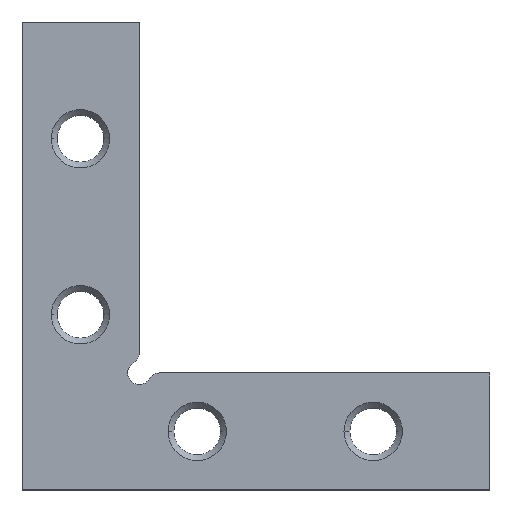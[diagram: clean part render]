
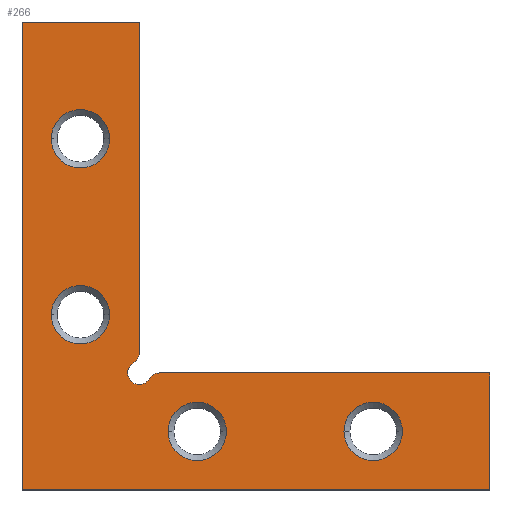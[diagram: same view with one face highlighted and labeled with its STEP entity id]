
A CAD part, top view. The second image highlights one B-rep face of the part: STEP entity #266.
In plain terms, the highlighted planar face has unit normal (0, 0, 1).
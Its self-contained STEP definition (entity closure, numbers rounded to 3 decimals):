
#4 = DIRECTION ( 'NONE',  ( -1., 0., 0. ) ) ;
#11 = DIRECTION ( 'NONE',  ( -1., 0., 0. ) ) ;
#35 = VECTOR ( 'NONE', #1023, 1000. ) ;
#36 = CARTESIAN_POINT ( 'NONE',  ( -14.874, 0.951, 4. ) ) ;
#37 = FACE_BOUND ( 'NONE', #321, .T. ) ;
#63 = FACE_OUTER_BOUND ( 'NONE', #493, .T. ) ;
#65 = ORIENTED_EDGE ( 'NONE', *, *, #1045, .F. ) ;
#72 = LINE ( 'NONE', #167, #35 ) ;
#74 = DIRECTION ( 'NONE',  ( -1., 0., 0. ) ) ;
#76 = CIRCLE ( 'NONE', #249, 2.5 ) ;
#89 = CARTESIAN_POINT ( 'NONE',  ( -22.425, 5.937, 4. ) ) ;
#94 = CARTESIAN_POINT ( 'NONE',  ( -14.874, 31.007, 4. ) ) ;
#115 = PLANE ( 'NONE',  #878 ) ;
#119 = CARTESIAN_POINT ( 'NONE',  ( -14.874, 31.007, 4. ) ) ;
#124 = AXIS2_PLACEMENT_3D ( 'NONE', #246, #846, #337 ) ;
#125 = DIRECTION ( 'NONE',  ( 1., 0., 0. ) ) ;
#130 = DIRECTION ( 'NONE',  ( 0., 0., 1. ) ) ;
#149 = VERTEX_POINT ( 'NONE', #303 ) ;
#154 = VERTEX_POINT ( 'NONE', #817 ) ;
#155 = CIRCLE ( 'NONE', #977, 2.5 ) ;
#157 = ORIENTED_EDGE ( 'NONE', *, *, #225, .F. ) ;
#167 = CARTESIAN_POINT ( 'NONE',  ( -24.925, 31.007, 4. ) ) ;
#191 = DIRECTION ( 'NONE',  ( -1., 0., 0. ) ) ;
#197 = EDGE_CURVE ( 'NONE', #827, #575, #1022, .T. ) ;
#204 = CARTESIAN_POINT ( 'NONE',  ( -15.374, 1.817, 4. ) ) ;
#206 = VECTOR ( 'NONE', #215, 1000. ) ;
#213 = VECTOR ( 'NONE', #227, 1000. ) ;
#215 = DIRECTION ( 'NONE',  ( 1., 0., 0. ) ) ;
#225 = EDGE_CURVE ( 'NONE', #232, #550, #967, .T. ) ;
#227 = DIRECTION ( 'NONE',  ( 1., 0., 0. ) ) ;
#230 = CIRCLE ( 'NONE', #782, 1. ) ;
#232 = VERTEX_POINT ( 'NONE', #799 ) ;
#240 = CARTESIAN_POINT ( 'NONE',  ( -19.925, 21.007, 4. ) ) ;
#246 = CARTESIAN_POINT ( 'NONE',  ( -19.925, 21.007, 4. ) ) ;
#249 = AXIS2_PLACEMENT_3D ( 'NONE', #255, #855, #347 ) ;
#255 = CARTESIAN_POINT ( 'NONE',  ( -9.925, -4.049, 4. ) ) ;
#256 = FACE_BOUND ( 'NONE', #743, .T. ) ;
#262 = ORIENTED_EDGE ( 'NONE', *, *, #372, .T. ) ;
#266 = ADVANCED_FACE ( 'NONE', ( #491, #713, #256, #37, #63 ), #115, .F. ) ;
#268 = LINE ( 'NONE', #974, #213 ) ;
#273 = DIRECTION ( 'NONE',  ( 0., 1., 0. ) ) ;
#274 = ORIENTED_EDGE ( 'NONE', *, *, #578, .T. ) ;
#282 = AXIS2_PLACEMENT_3D ( 'NONE', #1021, #512, #4 ) ;
#285 = ORIENTED_EDGE ( 'NONE', *, *, #803, .F. ) ;
#291 = CIRCLE ( 'NONE', #1004, 2.5 ) ;
#292 = EDGE_CURVE ( 'NONE', #676, #550, #911, .T. ) ;
#303 = CARTESIAN_POINT ( 'NONE',  ( -14.874, 2.683, 4. ) ) ;
#304 = ORIENTED_EDGE ( 'NONE', *, *, #529, .T. ) ;
#321 = EDGE_LOOP ( 'NONE', ( #274, #540 ) ) ;
#327 = DIRECTION ( 'NONE',  ( -1., 0., 0. ) ) ;
#334 = VERTEX_POINT ( 'NONE', #336 ) ;
#336 = CARTESIAN_POINT ( 'NONE',  ( -17.425, 21.007, 4. ) ) ;
#337 = DIRECTION ( 'NONE',  ( -1., 0., 0. ) ) ;
#338 = DIRECTION ( 'NONE',  ( 0., 0., -1. ) ) ;
#342 = CARTESIAN_POINT ( 'NONE',  ( 5.146, -4.049, 4. ) ) ;
#347 = DIRECTION ( 'NONE',  ( -1., 0., 0. ) ) ;
#359 = ORIENTED_EDGE ( 'NONE', *, *, #292, .T. ) ;
#372 = EDGE_CURVE ( 'NONE', #864, #149, #807, .T. ) ;
#376 = VERTEX_POINT ( 'NONE', #693 ) ;
#379 = CARTESIAN_POINT ( 'NONE',  ( 2.646, -4.049, 4. ) ) ;
#383 = ORIENTED_EDGE ( 'NONE', *, *, #603, .T. ) ;
#384 = CIRCLE ( 'NONE', #282, 2.5 ) ;
#427 = CARTESIAN_POINT ( 'NONE',  ( -24.925, -9.063, 4. ) ) ;
#429 = EDGE_CURVE ( 'NONE', #575, #827, #76, .T. ) ;
#431 = DIRECTION ( 'NONE',  ( -1., 0., 0. ) ) ;
#449 = AXIS2_PLACEMENT_3D ( 'NONE', #1100, #589, #74 ) ;
#454 = CARTESIAN_POINT ( 'NONE',  ( 0., 0., 4. ) ) ;
#469 = LINE ( 'NONE', #729, #206 ) ;
#491 = FACE_BOUND ( 'NONE', #518, .T. ) ;
#493 = EDGE_LOOP ( 'NONE', ( #157, #835, #862, #262, #285, #65, #976, #304, #359 ) ) ;
#495 = CARTESIAN_POINT ( 'NONE',  ( -19.925, 5.937, 4. ) ) ;
#508 = EDGE_CURVE ( 'NONE', #232, #568, #230, .T. ) ;
#512 = DIRECTION ( 'NONE',  ( 0., 0., -1. ) ) ;
#518 = EDGE_LOOP ( 'NONE', ( #786, #383 ) ) ;
#519 = DIRECTION ( 'NONE',  ( 0., 0., -1. ) ) ;
#529 = EDGE_CURVE ( 'NONE', #759, #676, #469, .T. ) ;
#538 = CARTESIAN_POINT ( 'NONE',  ( 15.146, -9.063, 4. ) ) ;
#540 = ORIENTED_EDGE ( 'NONE', *, *, #1103, .T. ) ;
#542 = LINE ( 'NONE', #94, #880 ) ;
#550 = VERTEX_POINT ( 'NONE', #956 ) ;
#568 = VERTEX_POINT ( 'NONE', #963 ) ;
#575 = VERTEX_POINT ( 'NONE', #700 ) ;
#577 = ORIENTED_EDGE ( 'NONE', *, *, #1058, .T. ) ;
#578 = EDGE_CURVE ( 'NONE', #334, #629, #834, .T. ) ;
#582 = DIRECTION ( 'NONE',  ( -1., 0., 0. ) ) ;
#587 = EDGE_CURVE ( 'NONE', #795, #376, #384, .T. ) ;
#589 = DIRECTION ( 'NONE',  ( 0., 0., 1. ) ) ;
#603 = EDGE_CURVE ( 'NONE', #1056, #154, #155, .T. ) ;
#605 = CARTESIAN_POINT ( 'NONE',  ( -22.425, 21.007, 4. ) ) ;
#625 = AXIS2_PLACEMENT_3D ( 'NONE', #36, #633, #125 ) ;
#629 = VERTEX_POINT ( 'NONE', #605 ) ;
#633 = DIRECTION ( 'NONE',  ( 0., 0., 1. ) ) ;
#641 = CARTESIAN_POINT ( 'NONE',  ( -13.142, -0.049, 4. ) ) ;
#658 = DIRECTION ( 'NONE',  ( 1., 0., 0. ) ) ;
#676 = VERTEX_POINT ( 'NONE', #725 ) ;
#679 = DIRECTION ( 'NONE',  ( 0., -1., 0. ) ) ;
#693 = CARTESIAN_POINT ( 'NONE',  ( -17.425, 5.937, 4. ) ) ;
#700 = CARTESIAN_POINT ( 'NONE',  ( -12.425, -4.049, 4. ) ) ;
#707 = DIRECTION ( 'NONE',  ( 0., 0., -1. ) ) ;
#713 = FACE_BOUND ( 'NONE', #823, .T. ) ;
#722 = CIRCLE ( 'NONE', #925, 2.5 ) ;
#723 = DIRECTION ( 'NONE',  ( -1., 0., 0. ) ) ;
#725 = CARTESIAN_POINT ( 'NONE',  ( 15.146, -9.063, 4. ) ) ;
#726 = CARTESIAN_POINT ( 'NONE',  ( -24.925, 31.007, 4. ) ) ;
#729 = CARTESIAN_POINT ( 'NONE',  ( -24.925, -9.063, 4. ) ) ;
#742 = VECTOR ( 'NONE', #658, 1000. ) ;
#743 = EDGE_LOOP ( 'NONE', ( #577, #960 ) ) ;
#747 = AXIS2_PLACEMENT_3D ( 'NONE', #1030, #519, #11 ) ;
#749 = EDGE_CURVE ( 'NONE', #154, #1056, #722, .T. ) ;
#750 = EDGE_CURVE ( 'NONE', #890, #759, #72, .T. ) ;
#759 = VERTEX_POINT ( 'NONE', #427 ) ;
#782 = AXIS2_PLACEMENT_3D ( 'NONE', #641, #130, #723 ) ;
#786 = ORIENTED_EDGE ( 'NONE', *, *, #749, .T. ) ;
#795 = VERTEX_POINT ( 'NONE', #89 ) ;
#799 = CARTESIAN_POINT ( 'NONE',  ( -13.142, 0.951, 4. ) ) ;
#803 = EDGE_CURVE ( 'NONE', #1012, #149, #542, .T. ) ;
#807 = CIRCLE ( 'NONE', #449, 1. ) ;
#817 = CARTESIAN_POINT ( 'NONE',  ( 7.646, -4.049, 4. ) ) ;
#823 = EDGE_LOOP ( 'NONE', ( #849, #1055 ) ) ;
#827 = VERTEX_POINT ( 'NONE', #857 ) ;
#834 = CIRCLE ( 'NONE', #124, 2.5 ) ;
#835 = ORIENTED_EDGE ( 'NONE', *, *, #508, .T. ) ;
#836 = DIRECTION ( 'NONE',  ( 0., 0., -1. ) ) ;
#844 = AXIS2_PLACEMENT_3D ( 'NONE', #240, #836, #327 ) ;
#846 = DIRECTION ( 'NONE',  ( 0., 0., -1. ) ) ;
#848 = CARTESIAN_POINT ( 'NONE',  ( 5.146, -4.049, 4. ) ) ;
#849 = ORIENTED_EDGE ( 'NONE', *, *, #197, .T. ) ;
#855 = DIRECTION ( 'NONE',  ( 0., 0., -1. ) ) ;
#857 = CARTESIAN_POINT ( 'NONE',  ( -7.425, -4.049, 4. ) ) ;
#861 = VECTOR ( 'NONE', #273, 1000. ) ;
#862 = ORIENTED_EDGE ( 'NONE', *, *, #1018, .F. ) ;
#864 = VERTEX_POINT ( 'NONE', #204 ) ;
#878 = AXIS2_PLACEMENT_3D ( 'NONE', #454, #707, #191 ) ;
#880 = VECTOR ( 'NONE', #679, 1000. ) ;
#884 = CARTESIAN_POINT ( 'NONE',  ( -14.874, 0.951, 4. ) ) ;
#890 = VERTEX_POINT ( 'NONE', #726 ) ;
#911 = LINE ( 'NONE', #538, #861 ) ;
#925 = AXIS2_PLACEMENT_3D ( 'NONE', #848, #338, #934 ) ;
#934 = DIRECTION ( 'NONE',  ( -1., 0., 0. ) ) ;
#935 = DIRECTION ( 'NONE',  ( 0., 0., -1. ) ) ;
#956 = CARTESIAN_POINT ( 'NONE',  ( 15.146, 0.951, 4. ) ) ;
#960 = ORIENTED_EDGE ( 'NONE', *, *, #587, .T. ) ;
#963 = CARTESIAN_POINT ( 'NONE',  ( -14.008, 0.451, 4. ) ) ;
#967 = LINE ( 'NONE', #884, #742 ) ;
#974 = CARTESIAN_POINT ( 'NONE',  ( -24.925, 31.007, 4. ) ) ;
#976 = ORIENTED_EDGE ( 'NONE', *, *, #750, .T. ) ;
#977 = AXIS2_PLACEMENT_3D ( 'NONE', #342, #935, #431 ) ;
#1004 = AXIS2_PLACEMENT_3D ( 'NONE', #495, #1092, #582 ) ;
#1012 = VERTEX_POINT ( 'NONE', #119 ) ;
#1018 = EDGE_CURVE ( 'NONE', #864, #568, #1081, .T. ) ;
#1021 = CARTESIAN_POINT ( 'NONE',  ( -19.925, 5.937, 4. ) ) ;
#1022 = CIRCLE ( 'NONE', #747, 2.5 ) ;
#1023 = DIRECTION ( 'NONE',  ( 0., -1., 0. ) ) ;
#1030 = CARTESIAN_POINT ( 'NONE',  ( -9.925, -4.049, 4. ) ) ;
#1045 = EDGE_CURVE ( 'NONE', #890, #1012, #268, .T. ) ;
#1055 = ORIENTED_EDGE ( 'NONE', *, *, #429, .T. ) ;
#1056 = VERTEX_POINT ( 'NONE', #379 ) ;
#1058 = EDGE_CURVE ( 'NONE', #376, #795, #291, .T. ) ;
#1081 = CIRCLE ( 'NONE', #625, 1. ) ;
#1089 = CIRCLE ( 'NONE', #844, 2.5 ) ;
#1092 = DIRECTION ( 'NONE',  ( 0., 0., -1. ) ) ;
#1100 = CARTESIAN_POINT ( 'NONE',  ( -15.874, 2.683, 4. ) ) ;
#1103 = EDGE_CURVE ( 'NONE', #629, #334, #1089, .T. ) ;
